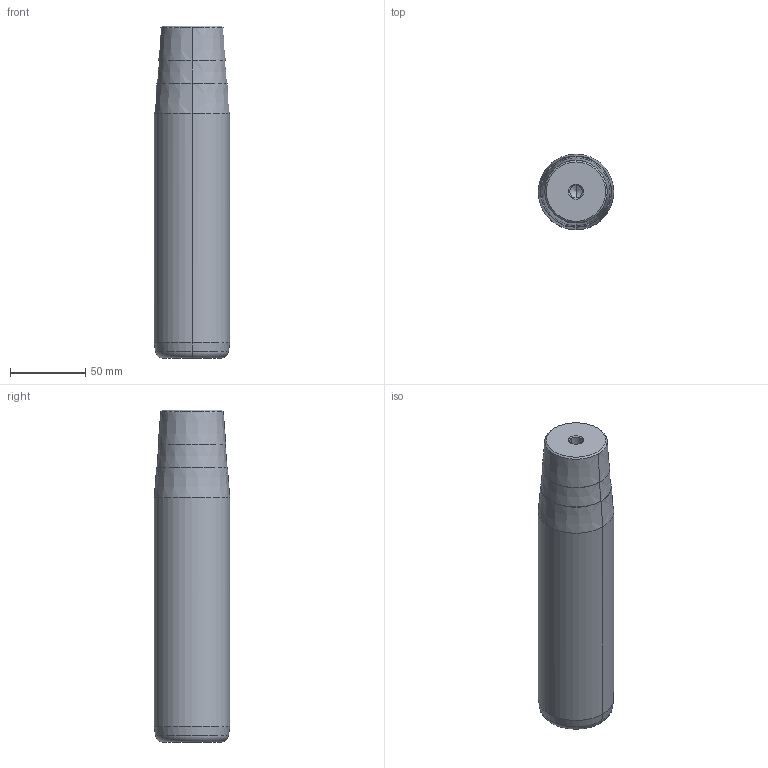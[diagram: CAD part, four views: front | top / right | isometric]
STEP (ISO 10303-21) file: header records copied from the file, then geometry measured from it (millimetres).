
FILE_DESCRIPTION(('CATIA V5 STEP Exchange'),'2;1');
FILE_NAME('C:\Users\Utente\Desktop\IO LAVORO\3D X SITO CF\X SITO\722\722-50x180x220.stp','2021-01-08T14:56:27+00:00',('none'),('none'),'CATIA Version 5 Release 20 GA (IN-10)','CATIA V5 STEP AP203','none');
FILE_SCHEMA(('CONFIG_CONTROL_DESIGN'));
Length unit declared in the file: millimetre
Products named in the file (1): 722-50x180x220
Bounding box: 50 x 50 x 220 mm (x, y, z)
Volume: 408248.8 mm3; surface area: 37956.4 mm2
Topology: 1 solids, 1 shells, 32 faces, 98 edges, 66 vertices
Faces by surface type: cone 22, cylinder 6, plane 2, torus 2
Entity records: 1166 total; most frequent: CARTESIAN_POINT 279, ORIENTED_EDGE 188, DIRECTION 148, EDGE_CURVE 94, AXIS2_PLACEMENT_3D 89, VERTEX_POINT 66, CIRCLE 56, EDGE_LOOP 34
